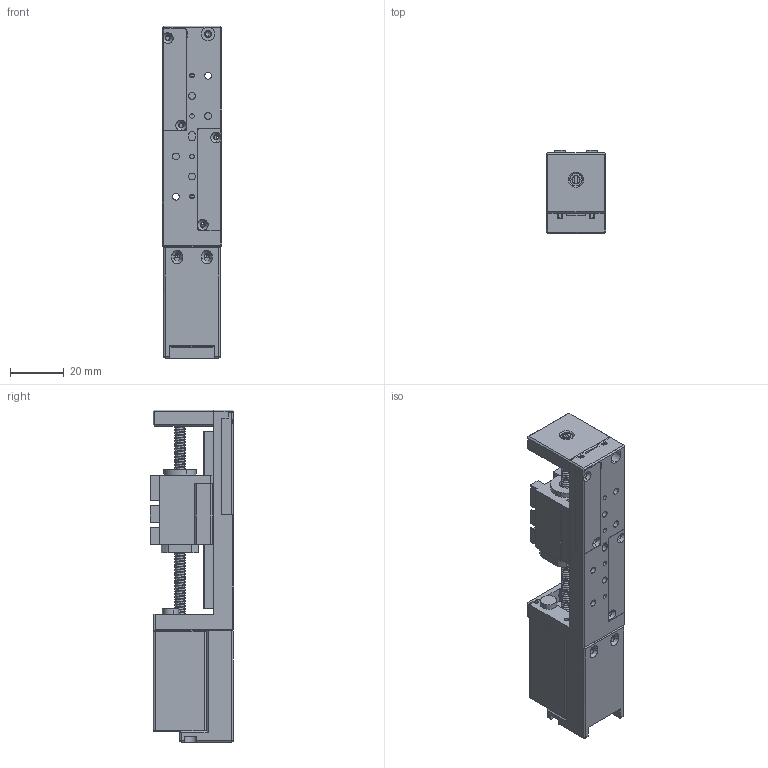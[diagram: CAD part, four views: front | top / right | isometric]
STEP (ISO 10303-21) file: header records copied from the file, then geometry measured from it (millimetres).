
FILE_DESCRIPTION (( 'STEP AP203' ), '1' );
FILE_NAME ('EML20A38-B0130.STEP', '2024-03-06T02:50:22', ( '' ), ( '' ), 'SwSTEP 2.0', 'SolidWorks 2023', '' );
FILE_SCHEMA (( 'CONFIG_CONTROL_DESIGN' ));
Length unit declared in the file: millimetre
Products named in the file (15): MGN7C-66滑轨; 0401螺母; 防撞牛筋柱3-6; MGN7C 滑块; 20A38-GZ0401-82电机; 20后导光片; EML20A38-B0130; XY-1064; 20前导光片; 20-30光电经济模组基座; 20经济模组轴承座; JFM-0304-5; 20光电安装座; 20A38端子盖; 20单边桥
Assembly tree (15 placements, depth 2):
  EML20A38-B0130
    20-30光电经济模组基座
    MGN7C-66滑轨
    MGN7C 滑块
    20经济模组轴承座
    20光电安装座
    20A38-GZ0401-82电机
    20前导光片
    20后导光片
    20A38端子盖
    20单边桥
    防撞牛筋柱3-6  x2
    JFM-0304-5
    XY-1064
    0401螺母
Bounding box: 22 x 31 x 123.5 mm (x, y, z)
Volume: 43577 mm3; surface area: 31096 mm2
Topology: 15 solids, 15 shells, 947 faces, 2617 edges, 1656 vertices
Faces by surface type: cylinder 469, plane 364, cone 83, torus 24, sphere 4, bspline 3
Entity records: 40084 total; most frequent: CARTESIAN_POINT 14906, ORIENTED_EDGE 5094, DIRECTION 4851, EDGE_CURVE 2547, AXIS2_PLACEMENT_3D 1706, VERTEX_POINT 1648, LINE 1439, VECTOR 1439
